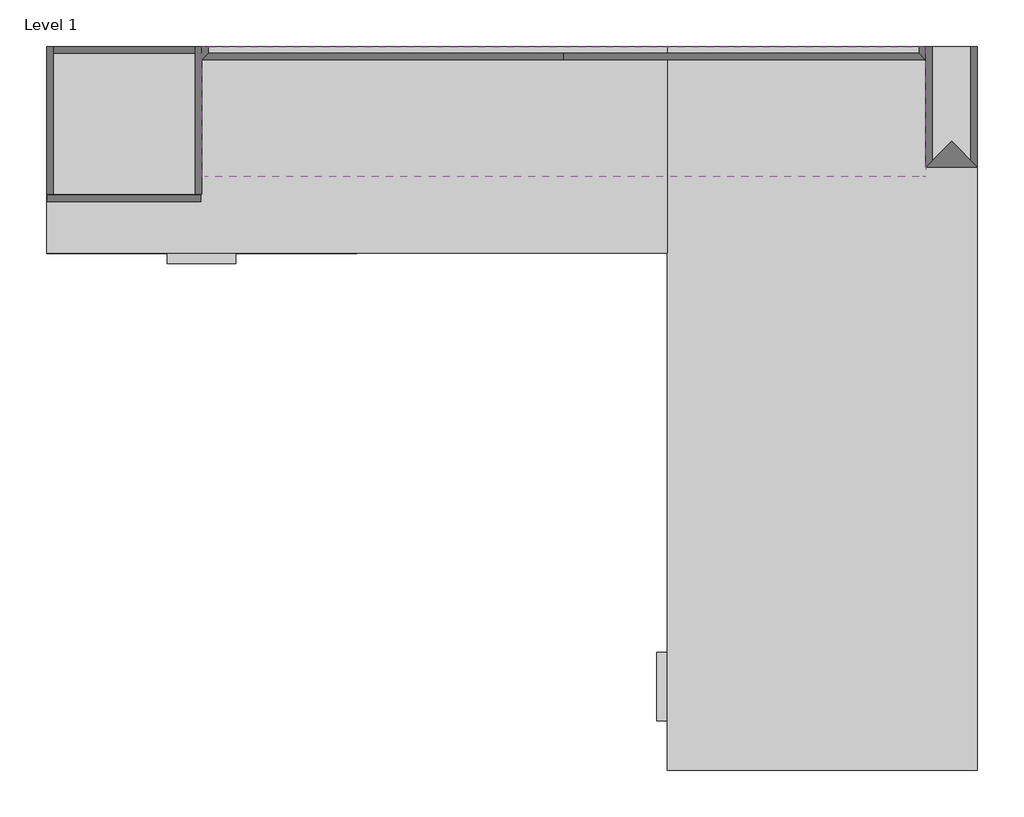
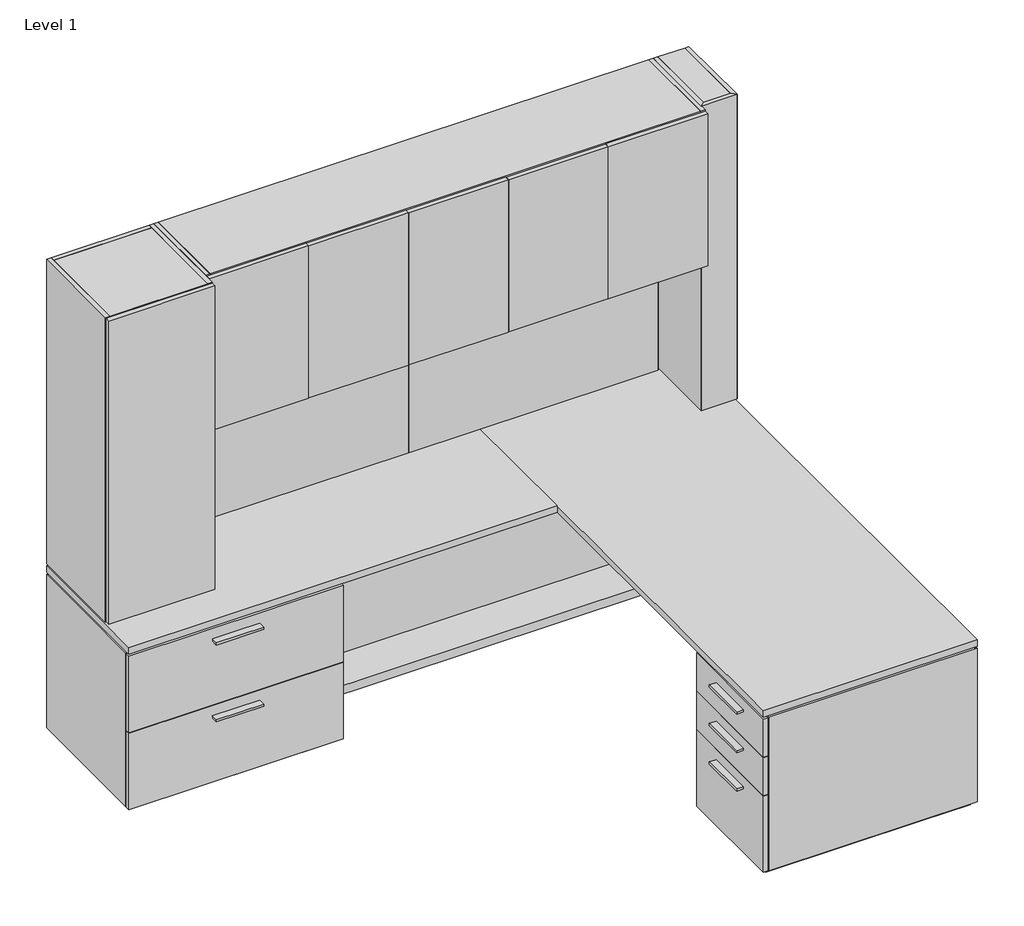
# One storey: 8 proxies.
"""IFC4 building model written with IfcOpenShell, lengths in millimetres."""

from ifc_helpers import new_model, si_unit, origin, place, context, project, spatial, transform, mapped, element, save
from components import generic_models_96f8618b, generic_models_2d11d537, generic_models_0cc99233, generic_models_a2ea1d8e, generic_models_dd2f084d, generic_models_b663e8fc, generic_models_cb901ea9

model = new_model("IFC4")

# Units and contexts
model_context = context("Model", 3, world=origin())
ifc_project = project(units=[si_unit("LENGTHUNIT", "METRE", prefix="MILLI")], contexts=[model_context])

# Site, building, storey
site = spatial("IfcSite", under=ifc_project)
building = spatial("IfcBuilding", under=site)
storey = spatial("IfcBuildingStorey", under=building, Name="Level 1", Elevation=0.0)

# Proxies
placement = place(None, origin())
generic_models_shape = generic_models_96f8618b(model_context)
element("IfcBuildingElementProxy", 1, Name="BASYS^OFFICE 3_CORNER COLUMN-PARTS SOLID", ObjectType="BASYS^OFFICE 3_CORNER COLUMN-PARTS SOLID", at=placement, inside=storey, context=model_context, shape_type="MappedRepresentation", body=[
    mapped(generic_models_shape, transform((2609.85, -336.55, 749.3), x_axis=(1.0, 0.0, 0.0), y_axis=(0.0, 0.0, 1.0), z_axis=(0.0, -1.0, 0.0))),
])
generic_models_2_shape = generic_models_2d11d537(model_context)
element("IfcBuildingElementProxy", 2, Name="BASYS^OFFICE 3_WALL HUNG STORAGE-5 DOORS", ObjectType="BASYS^OFFICE 3_WALL HUNG STORAGE-5 DOORS", at=placement, inside=storey, context=model_context, shape_type="MappedRepresentation", body=[
    mapped(generic_models_2_shape, transform((457.2, 0.0, 1441.45), x_axis=(1.0, 0.0, 0.0), y_axis=(0.0, 0.0, 1.0), z_axis=(0.0, -1.0, 0.0))),
])
generic_models_3_shape = generic_models_0cc99233(model_context)
element("IfcBuildingElementProxy", 3, Name="BASYS^WOOD END BASES_FULL MODESTY-84x30 BBF RT", ObjectType="BASYS^WOOD END BASES_FULL MODESTY-84x30 BBF RT", at=placement, inside=storey, context=model_context, shape_type="MappedRepresentation", body=[
    mapped(generic_models_3_shape, transform((2613.5696655, 1184.3559888, 693.2082154), x_axis=(0.0, 1.0, 0.0), y_axis=(0.0, 0.0, 1.0), z_axis=(1.0, 0.0, 0.0))),
])
generic_models_4_shape = generic_models_a2ea1d8e(model_context)
element("IfcBuildingElementProxy", 4, Name="BASYS^OFFICE 3_WALL HUNGS-TACKBOARD", ObjectType="BASYS^OFFICE 3_WALL HUNGS-TACKBOARD", at=placement, inside=storey, context=model_context, shape_type="MappedRepresentation", body=[
    mapped(generic_models_4_shape, transform((1524.0, -19.05, 750.09375), x_axis=(1.0, 0.0, 0.0), y_axis=(0.0, 0.0, 1.0), z_axis=(0.0, -1.0, 0.0))),
])
element("IfcBuildingElementProxy", 5, Name="BASYS^OFFICE 3_WALL HUNGS-TACKBOARD", ObjectType="BASYS^OFFICE 3_WALL HUNGS-TACKBOARD", at=placement, inside=storey, context=model_context, shape_type="MappedRepresentation", body=[
    mapped(generic_models_4_shape, transform((1524.0, -19.05, 1440.65625), x_axis=(-1.0, 0.0, 0.0), y_axis=(0.0, 0.0, -1.0), z_axis=(0.0, -1.0, 0.0))),
])
generic_models_5_shape = generic_models_dd2f084d(model_context)
element("IfcBuildingElementProxy", 6, Name="BASYS^WIRE WALLS_72 WIRE WALL-ACCESS LEFT", ObjectType="BASYS^WIRE WALLS_72 WIRE WALL-ACCESS LEFT", at=placement, inside=storey, context=model_context, shape_type="MappedRepresentation", body=[
    mapped(generic_models_5_shape, transform((914.4, -133.35, 692.15), x_axis=(1.0, 0.0, 0.0), y_axis=(0.0, 0.0, 1.0), z_axis=(0.0, -1.0, 0.0))),
])
generic_models_6_shape = generic_models_b663e8fc(model_context)
element("IfcBuildingElementProxy", 7, Name="BASYS^CREDENZA 5B 29-72 FF BF STORAGE", ObjectType="BASYS^CREDENZA 5B 29-72 FF BF STORAGE", at=placement, inside=storey, context=model_context, shape_type="MappedRepresentation", body=[
    mapped(generic_models_6_shape, transform((0.0, 0.0, 0.0), x_axis=(1.0, 0.0, 0.0), y_axis=(0.0, 0.0, 1.0), z_axis=(0.0, -1.0, 0.0))),
])
generic_models_7_shape = generic_models_cb901ea9(model_context)
element("IfcBuildingElementProxy", 8, Name="BASYS^OFFICE 3_WARDROBE-PARTS SOLID", ObjectType="BASYS^OFFICE 3_WARDROBE-PARTS SOLID", at=placement, inside=storey, context=model_context, shape_type="MappedRepresentation", body=[
    mapped(generic_models_7_shape, transform((19.05, 0.0, 758.825), x_axis=(1.0, 0.0, 0.0), y_axis=(0.0, 0.0, 1.0), z_axis=(0.0, -1.0, 0.0))),
])

save(model, "model.ifc")
